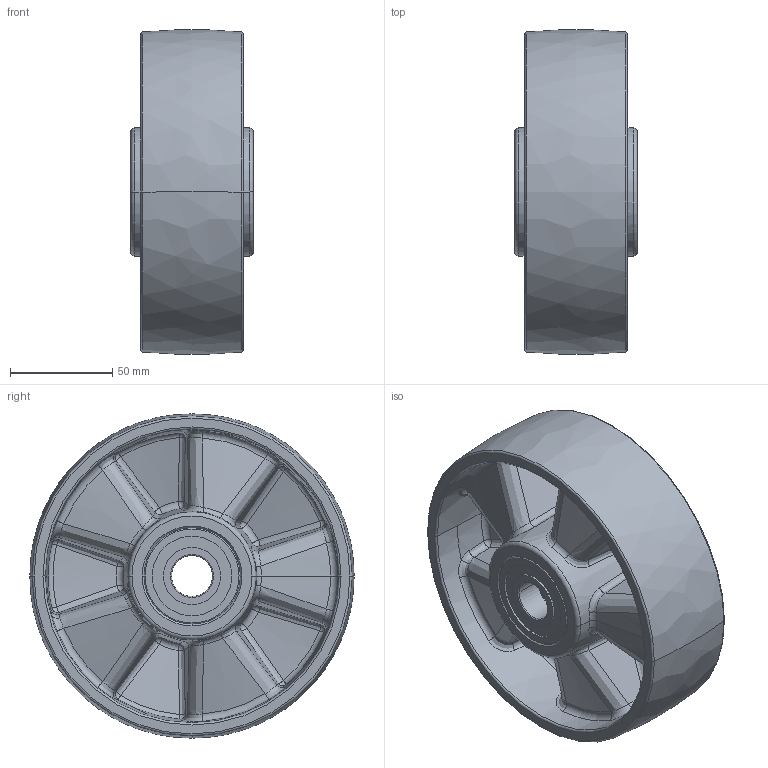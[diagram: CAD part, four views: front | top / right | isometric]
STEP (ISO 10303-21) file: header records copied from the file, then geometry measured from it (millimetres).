
FILE_DESCRIPTION (( 'STEP AP203' ), '1' );
FILE_NAME ('Wiberger-WN9014-160.step', '2026-04-20T13:28:10', ( '' ), ( '' ), 'SwSTEP 2.0', 'SolidWorks 2024', '' );
FILE_SCHEMA (( 'CONFIG_CONTROL_DESIGN' ));
Length unit declared in the file: millimetre
Products named in the file (1): Wiberger-WN9014-160
Bounding box: 60 x 158.74 x 158.74 mm (x, y, z)
Volume: 414563.8 mm3; surface area: 138981.2 mm2
Topology: 28 solids, 32 shells, 1650 faces, 4433 edges, 2873 vertices
Faces by surface type: plane 1151, bspline 138, cone 109, sphere 90, torus 89, cylinder 73
Entity records: 65564 total; most frequent: CARTESIAN_POINT 29895, ORIENTED_EDGE 8626, DIRECTION 5484, EDGE_CURVE 4313, VERTEX_POINT 2801, B_SPLINE_CURVE_WITH_KNOTS 2471, AXIS2_PLACEMENT_3D 2129, EDGE_LOOP 1736
